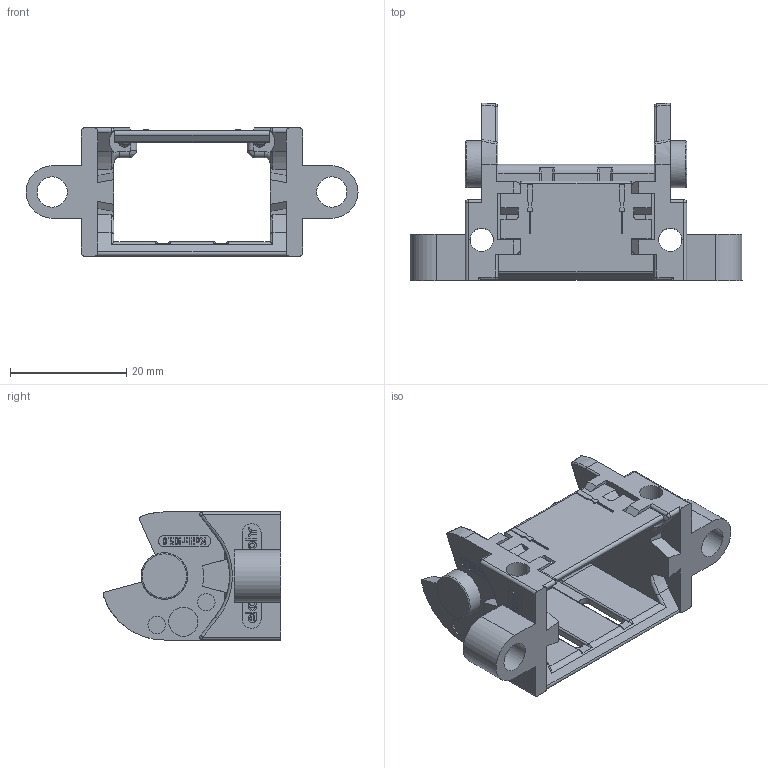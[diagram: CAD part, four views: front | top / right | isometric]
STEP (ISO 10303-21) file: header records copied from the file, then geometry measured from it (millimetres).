
FILE_DESCRIPTION((''),'2;1');
FILE_NAME('C:\Uebbing\PARAMETERKETTEN\KOLIBRI\Kol_22_038_0\KOLIBRI 22_038_0_SFA_Zapfen.stp','2013-04-16T07:59:14',('Uebbing'),(''),'Autodesk Inventor 10','Autodesk Inventor 10','');
FILE_SCHEMA(('AUTOMOTIVE_DESIGN { 1 0 10303 214 1 1 1 1 }'));
Length unit declared in the file: millimetre
Products named in the file (3): KOLIBRI 22_038_0_SFA_Zapfen; Kol_22_038_0_Klappsteg; Kol_22_038_0_Stirnflansch Zapfen
Assembly tree (2 placements, depth 2):
  KOLIBRI 22_038_0_SFA_Zapfen
    Kol_22_038_0_Klappsteg
    Kol_22_038_0_Stirnflansch Zapfen
Bounding box: 57 x 30.5 x 22 mm (x, y, z)
Volume: 6663.6 mm3; surface area: 7124.5 mm2
Topology: 5 solids, 5 shells, 910 faces, 2480 edges, 1614 vertices
Faces by surface type: plane 407, bspline 265, cylinder 187, torus 34, sphere 9, cone 8
Full cylindrical faces by diameter (mm): 0.804 x1, 1.412 x1, 1.9 x4, 2 x4, 3 x4, 4 x2, 5 x1, 5.2 x2, 8 x2
Entity records: 32042 total; most frequent: CARTESIAN_POINT 10637, ORIENTED_EDGE 4862, DIRECTION 3654, EDGE_CURVE 2431, VERTEX_POINT 1601, VECTOR 1400, LINE 1400, AXIS2_PLACEMENT_3D 1127
